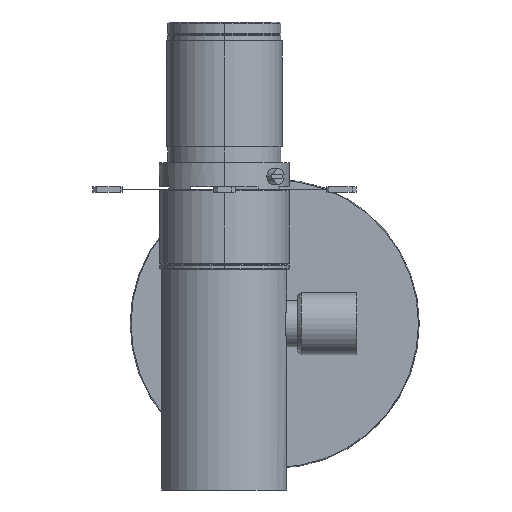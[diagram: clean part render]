
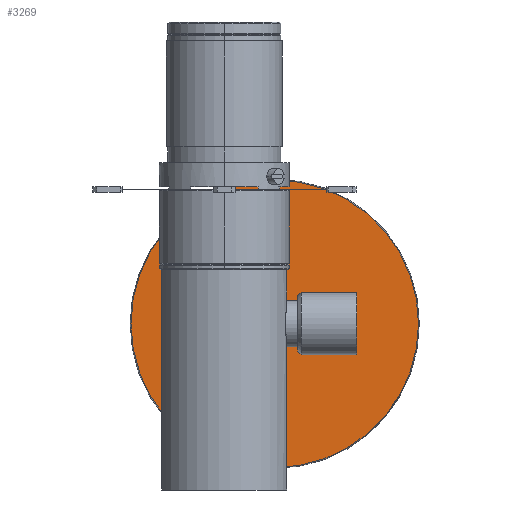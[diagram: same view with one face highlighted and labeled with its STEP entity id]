
A CAD part, front view. The second image highlights one B-rep face of the part: STEP entity #3269.
In plain terms, the highlighted planar face has unit normal (0, -1, 0).
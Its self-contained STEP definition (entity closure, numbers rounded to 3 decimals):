
#189 = DIRECTION ( 'NONE',  ( 0., 1., 0. ) ) ;
#330 = VERTEX_POINT ( 'NONE', #6380 ) ;
#522 = CIRCLE ( 'NONE', #2197, 93. ) ;
#656 = ORIENTED_EDGE ( 'NONE', *, *, #7068, .F. ) ;
#710 = EDGE_LOOP ( 'NONE', ( #4539, #7961 ) ) ;
#897 = CARTESIAN_POINT ( 'NONE',  ( 28.3, 124., 0. ) ) ;
#962 = VERTEX_POINT ( 'NONE', #3645 ) ;
#1177 = EDGE_CURVE ( 'NONE', #330, #8007, #7594, .T. ) ;
#1641 = FACE_BOUND ( 'NONE', #710, .T. ) ;
#1726 = DIRECTION ( 'NONE',  ( 0., 1., 0. ) ) ;
#1967 = CIRCLE ( 'NONE', #3173, 18. ) ;
#2197 = AXIS2_PLACEMENT_3D ( 'NONE', #4076, #189, #4048 ) ;
#2322 = DIRECTION ( 'NONE',  ( 0., 0., 1. ) ) ;
#2387 = CARTESIAN_POINT ( 'NONE',  ( 28.3, 124., -18. ) ) ;
#2398 = DIRECTION ( 'NONE',  ( 0., 0., 1. ) ) ;
#2708 = CARTESIAN_POINT ( 'NONE',  ( 28.3, 124., 0. ) ) ;
#3173 = AXIS2_PLACEMENT_3D ( 'NONE', #2708, #6598, #6648 ) ;
#3262 = AXIS2_PLACEMENT_3D ( 'NONE', #897, #6243, #2322 ) ;
#3269 = ADVANCED_FACE ( 'NONE', ( #1641, #4419 ), #5676, .F. ) ;
#3462 = DIRECTION ( 'NONE',  ( 0., 1., 0. ) ) ;
#3645 = CARTESIAN_POINT ( 'NONE',  ( -6.7, 124., -93. ) ) ;
#3794 = CARTESIAN_POINT ( 'NONE',  ( -6.7, 124., 0. ) ) ;
#4048 = DIRECTION ( 'NONE',  ( 0., 0., 1. ) ) ;
#4076 = CARTESIAN_POINT ( 'NONE',  ( -6.7, 124., 0. ) ) ;
#4419 = FACE_OUTER_BOUND ( 'NONE', #7882, .T. ) ;
#4539 = ORIENTED_EDGE ( 'NONE', *, *, #1177, .T. ) ;
#4992 = EDGE_CURVE ( 'NONE', #8007, #330, #1967, .T. ) ;
#5676 = PLANE ( 'NONE',  #7690 ) ;
#6243 = DIRECTION ( 'NONE',  ( 0., 1., 0. ) ) ;
#6380 = CARTESIAN_POINT ( 'NONE',  ( 28.3, 124., 18. ) ) ;
#6598 = DIRECTION ( 'NONE',  ( 0., 1., 0. ) ) ;
#6640 = CARTESIAN_POINT ( 'NONE',  ( -6.7, 124., 93. ) ) ;
#6648 = DIRECTION ( 'NONE',  ( 0., 0., 1. ) ) ;
#6718 = CIRCLE ( 'NONE', #8152, 93. ) ;
#7054 = VERTEX_POINT ( 'NONE', #6640 ) ;
#7068 = EDGE_CURVE ( 'NONE', #7054, #962, #6718, .T. ) ;
#7254 = CARTESIAN_POINT ( 'NONE',  ( -6.7, 124., 0. ) ) ;
#7335 = DIRECTION ( 'NONE',  ( 0., 0., 1. ) ) ;
#7594 = CIRCLE ( 'NONE', #3262, 18. ) ;
#7663 = EDGE_CURVE ( 'NONE', #962, #7054, #522, .T. ) ;
#7690 = AXIS2_PLACEMENT_3D ( 'NONE', #3794, #1726, #2398 ) ;
#7882 = EDGE_LOOP ( 'NONE', ( #656, #8159 ) ) ;
#7961 = ORIENTED_EDGE ( 'NONE', *, *, #4992, .T. ) ;
#8007 = VERTEX_POINT ( 'NONE', #2387 ) ;
#8152 = AXIS2_PLACEMENT_3D ( 'NONE', #7254, #3462, #7335 ) ;
#8159 = ORIENTED_EDGE ( 'NONE', *, *, #7663, .F. ) ;
